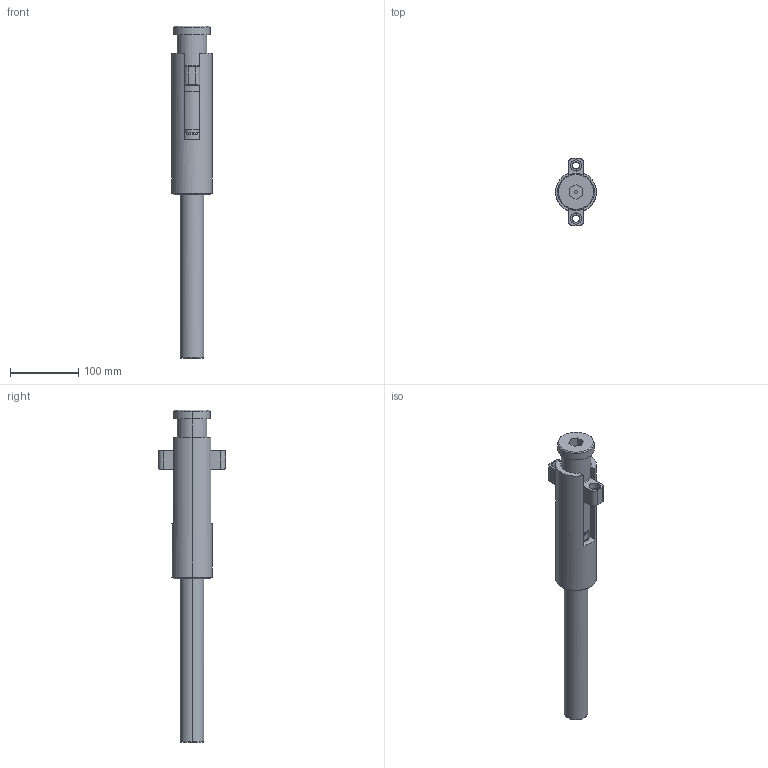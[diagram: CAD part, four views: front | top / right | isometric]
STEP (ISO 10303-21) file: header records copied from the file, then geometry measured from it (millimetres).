
FILE_DESCRIPTION (( 'STEP AP203' ), '1' );
FILE_NAME ('DKL6012.STEP', '2013-08-26T11:49:56', ( '' ), ( '' ), 'SwSTEP 2.0', 'SolidWorks 2013', '' );
FILE_SCHEMA (( 'CONFIG_CONTROL_DESIGN' ));
Length unit declared in the file: millimetre
Products named in the file (9): DKL6_82; DKL6_71; DKL6_11; DKL6012; DKL6_62; DKL6_51; DKL6_31; DKL6_21; DKL6_41 short
Assembly tree (11 placements, depth 2):
  DKL6012
    DKL6_31
    DKL6_62  x4
    DKL6_51
    DKL6_21
    DKL6_41 short
    DKL6_82
    DKL6_71
    DKL6_11
Bounding box: 60 x 98.94 x 488 mm (x, y, z)
Volume: 784918 mm3; surface area: 168563.9 mm2
Topology: 11 solids, 11 shells, 433 faces, 1035 edges, 636 vertices
Faces by surface type: plane 142, cylinder 136, cone 104, torus 49, bspline 2
Entity records: 15060 total; most frequent: CARTESIAN_POINT 5581, DIRECTION 1910, ORIENTED_EDGE 1686, EDGE_CURVE 843, AXIS2_PLACEMENT_3D 775, VERTEX_POINT 525, CIRCLE 408, EDGE_LOOP 400
